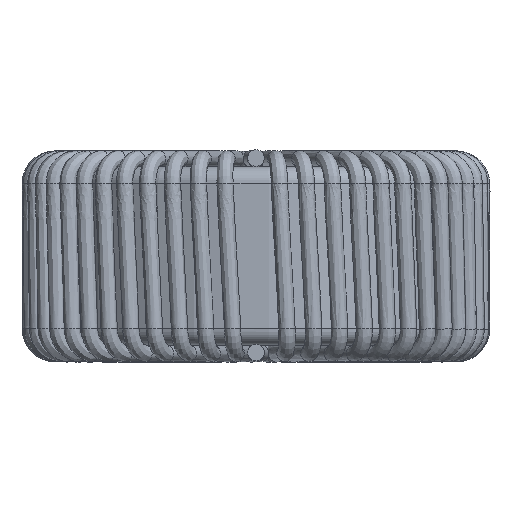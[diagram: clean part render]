
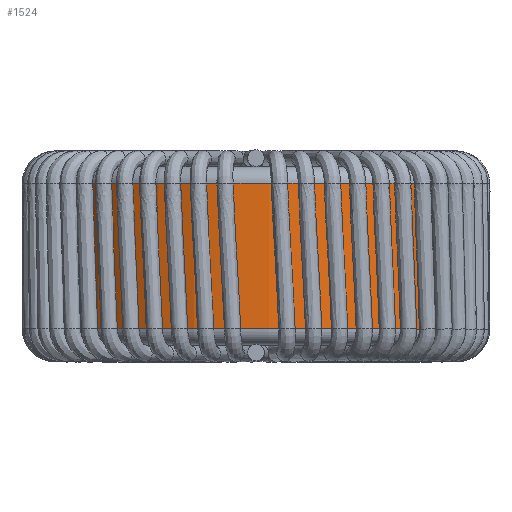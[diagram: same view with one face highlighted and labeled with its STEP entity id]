
A CAD part, top view. The second image highlights one B-rep face of the part: STEP entity #1524.
In plain terms, the highlighted cylindrical face has radius 6.73 mm (diameter 13.46 mm), a full revolution.
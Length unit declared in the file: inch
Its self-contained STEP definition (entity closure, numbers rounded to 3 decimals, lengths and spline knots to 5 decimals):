
#704 = DIRECTION ( 'NONE',  ( 0., 0., -1. ) ) ;
#1524 = ADVANCED_FACE ( 'NONE', ( #16675, #10165 ), #16302, .T. ) ;
#3970 = DIRECTION ( 'NONE',  ( 0., 1., 0. ) ) ;
#4277 = DIRECTION ( 'NONE',  ( 0., 0., 1. ) ) ;
#7100 = EDGE_CURVE ( 'NONE', #19223, #19223, #29480, .T. ) ;
#8074 = EDGE_LOOP ( 'NONE', ( #13171 ) ) ;
#8843 = CIRCLE ( 'NONE', #9735, 0.26496 ) ;
#8853 = ORIENTED_EDGE ( 'NONE', *, *, #10041, .T. ) ;
#9735 = AXIS2_PLACEMENT_3D ( 'NONE', #22072, #14867, #22501 ) ;
#9750 = AXIS2_PLACEMENT_3D ( 'NONE', #30817, #3970, #4277 ) ;
#10041 = EDGE_CURVE ( 'NONE', #26134, #26134, #8843, .T. ) ;
#10165 = FACE_OUTER_BOUND ( 'NONE', #12158, .T. ) ;
#10188 = DIRECTION ( 'NONE',  ( 0., -1., 0. ) ) ;
#12158 = EDGE_LOOP ( 'NONE', ( #8853 ) ) ;
#13171 = ORIENTED_EDGE ( 'NONE', *, *, #7100, .T. ) ;
#14867 = DIRECTION ( 'NONE',  ( 0., -1., 0. ) ) ;
#15920 = CARTESIAN_POINT ( 'NONE',  ( 0., 0.01969, 0.26496 ) ) ;
#16302 = CYLINDRICAL_SURFACE ( 'NONE', #17727, 0.26496 ) ;
#16675 = FACE_OUTER_BOUND ( 'NONE', #8074, .T. ) ;
#17727 = AXIS2_PLACEMENT_3D ( 'NONE', #19424, #10188, #704 ) ;
#19223 = VERTEX_POINT ( 'NONE', #15920 ) ;
#19424 = CARTESIAN_POINT ( 'NONE',  ( 0., 0.21693, 0. ) ) ;
#22072 = CARTESIAN_POINT ( 'NONE',  ( 0., 0.19724, 0. ) ) ;
#22501 = DIRECTION ( 'NONE',  ( 0., 0., 1. ) ) ;
#25665 = CARTESIAN_POINT ( 'NONE',  ( 0., 0.19724, 0.26496 ) ) ;
#26134 = VERTEX_POINT ( 'NONE', #25665 ) ;
#29480 = CIRCLE ( 'NONE', #9750, 0.26496 ) ;
#30817 = CARTESIAN_POINT ( 'NONE',  ( 0., 0.01969, 0. ) ) ;
